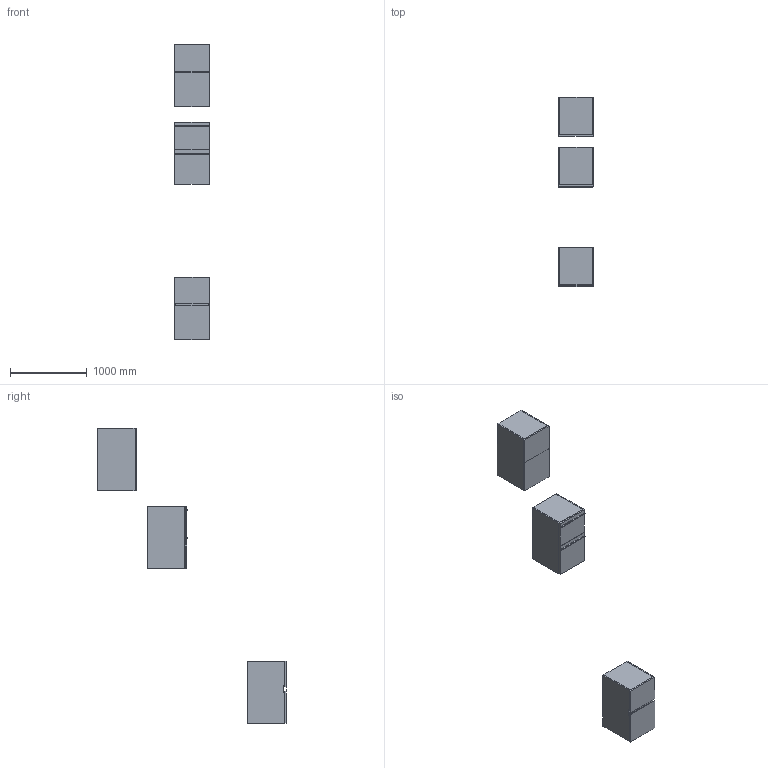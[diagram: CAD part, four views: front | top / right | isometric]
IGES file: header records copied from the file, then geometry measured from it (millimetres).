
Start section: Data from Parasolid IGES Translator 19.0.9, Copyright(c) 2006 Siemens PL M Software. All Rights Reserved.
Global section: file name: noorth-SI-H 81,2 D 51 W 45_9728.igs; native system: By Siemens PLM Incorporated; preprocessor: XPlus GENERIC/IGES 19.0.9; author: Noname; organization: Noname; date: 20200601.141400; units: metre
Bounding box: 450 x 2458 x 3842 mm (x, y, z)
Volume: 80868615.5 mm3; surface area: 12080797.9 mm2
Topology: 24 solids, 24 shells, 248 faces, 544 edges, 324 vertices
Faces by surface type: plane 164, extrusion 36, bspline 32, cylinder 16
